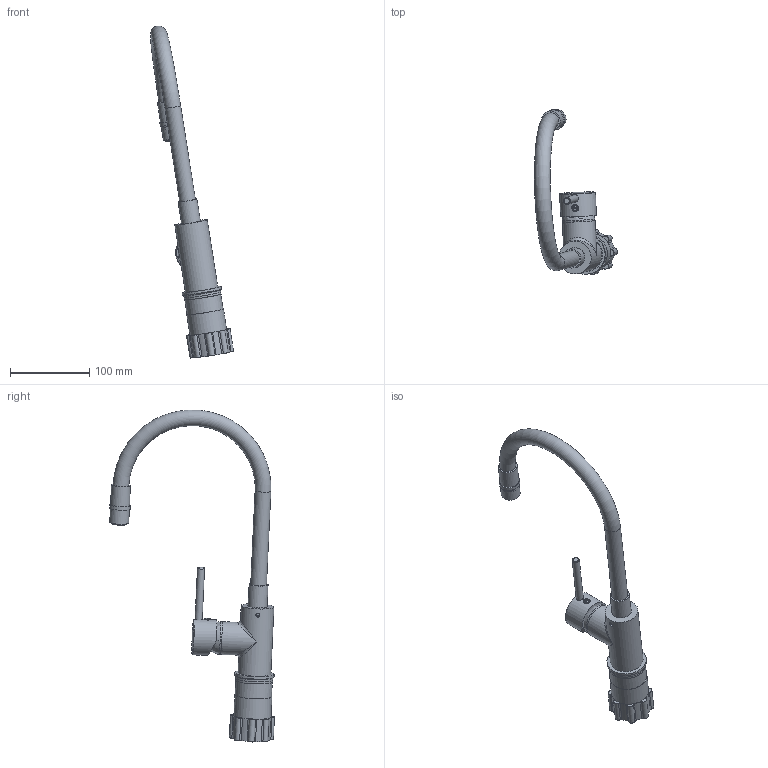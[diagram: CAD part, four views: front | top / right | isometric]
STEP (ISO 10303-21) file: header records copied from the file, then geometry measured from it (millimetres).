
FILE_DESCRIPTION(/* description */ (''),/* implementation_level */ '2;1');
FILE_NAME(/* name */ 'MXCU00FLOBLl.stp',/* time_stamp */ '2020-10-19T11:20:12+08:00',/* author */ (''),/* organization */ (''),/* preprocessor_version */ 'ST-DEVELOPER v16.7',/* originating_system */ 'SIEMENS PLM Software NX 1919',/* authorisation */ '');
FILE_SCHEMA (('AUTOMOTIVE_DESIGN { 1 0 10303 214 3 1 1 1 }'));
Length unit declared in the file: millimetre
Products named in the file (1): Admi28DC93D9fb83
Bounding box: 105.12 x 208.5 x 420.02 mm (x, y, z)
Volume: 399140.5 mm3; surface area: 146909.8 mm2
Topology: 21 solids, 21 shells, 822 faces, 2185 edges, 1426 vertices
Faces by surface type: cylinder 474, plane 257, cone 36, bspline 32, torus 22, sphere 1
Full cylindrical faces by diameter (mm): 2 x2, 5 x2, 6.7 x1, 9 x2, 14.4 x1, 14.5 x3, 16 x1, 18 x4, 18.6 x1, 20 x1, 20.2 x1, 21.5 x1, 24 x3, 25 x1, 25.2 x2, 26 x1, 27.5 x2, 28.8 x2, 30.5 x2, 32 x58, 33 x2, 33.75 x1, 37 x4, 37.8 x1, 41.5 x2, 43.1 x1, 43.2 x1, 45.4 x1, 46.1 x1, 47 x3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
Entity records: 52147 total; most frequent: CARTESIAN_POINT 33301, ORIENTED_EDGE 3780, DIRECTION 3739, EDGE_CURVE 1890, AXIS2_PLACEMENT_3D 1511, VERTEX_POINT 1270, EDGE_LOOP 1142, CIRCLE 780
